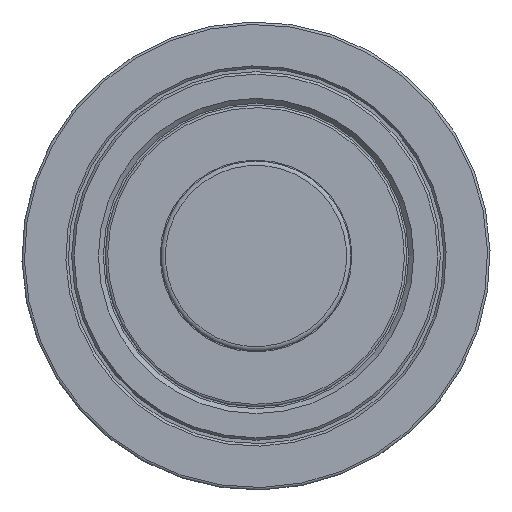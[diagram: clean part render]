
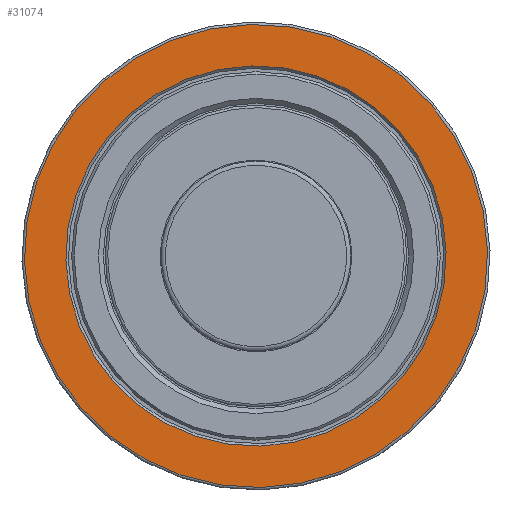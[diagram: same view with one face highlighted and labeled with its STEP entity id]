
A CAD part, front view. The second image highlights one B-rep face of the part: STEP entity #31074.
In plain terms, the highlighted planar face has unit normal (0, -1, 0).
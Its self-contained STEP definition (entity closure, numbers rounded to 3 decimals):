
#8773=FACE_BOUND('',#12061,.T.);
#10365=FACE_OUTER_BOUND('',#12060,.T.);
#12060=EDGE_LOOP('',(#29071));
#12061=EDGE_LOOP('',(#29072));
#12479=CIRCLE('',#32033,15.475);
#12482=CIRCLE('',#32038,18.85);
#15494=VERTEX_POINT('',#69689);
#15497=VERTEX_POINT('',#69699);
#20021=EDGE_CURVE('',#15494,#15494,#12479,.T.);
#20026=EDGE_CURVE('',#15497,#15497,#12482,.T.);
#29071=ORIENTED_EDGE('',*,*,#20026,.F.);
#29072=ORIENTED_EDGE('',*,*,#20021,.F.);
#29482=PLANE('',#32037);
#31074=ADVANCED_FACE('',(#10365,#8773),#29482,.T.);
#32033=AXIS2_PLACEMENT_3D('',#69690,#35567,#35568);
#32037=AXIS2_PLACEMENT_3D('',#69698,#35577,#35578);
#32038=AXIS2_PLACEMENT_3D('',#69700,#35579,#35580);
#35567=DIRECTION('center_axis',(0.,-1.,0.));
#35568=DIRECTION('ref_axis',(1.,0.,0.024));
#35577=DIRECTION('center_axis',(0.,-1.,0.));
#35578=DIRECTION('ref_axis',(-0.024,0.,
1.));
#35579=DIRECTION('center_axis',(0.,1.,0.));
#35580=DIRECTION('ref_axis',(1.,0.,0.024));
#69689=CARTESIAN_POINT('',(-15.47,-22.81,-0.374));
#69690=CARTESIAN_POINT('Origin',(0.,-22.81,
0.));
#69698=CARTESIAN_POINT('Origin',(-19.044,-22.81,-0.461));
#69699=CARTESIAN_POINT('',(-0.456,-22.81,18.844));
#69700=CARTESIAN_POINT('Origin',(0.,-22.81,
0.));
